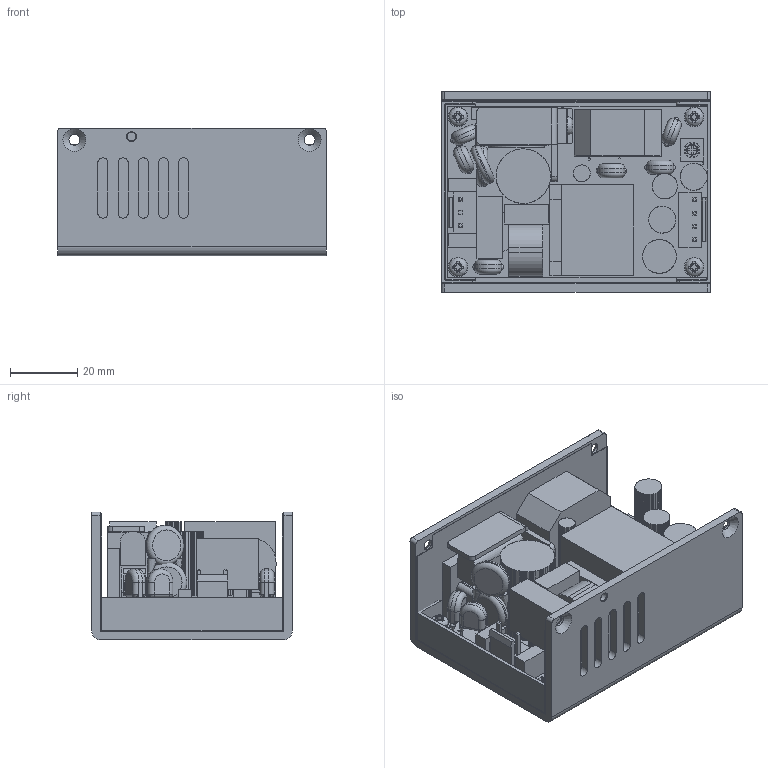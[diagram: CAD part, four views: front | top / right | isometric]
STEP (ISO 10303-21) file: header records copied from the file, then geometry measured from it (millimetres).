
FILE_DESCRIPTION(/* description */ (''),/* implementation_level */ '2;1');
FILE_NAME(/* name */ 'D:\Inventor\ARF130\TCI130U.stp',/* time_stamp */ '2023-08-04T17:42:41+08:00',/* author */ ('peter'),/* organization */ (''),/* preprocessor_version */ 'ST-DEVELOPER v15.2',/* originating_system */ 'Autodesk Inventor 2014',/* authorisation */ '');
FILE_SCHEMA (('AUTOMOTIVE_DESIGN { 1 0 10303 214 3 1 1 }'));
Length unit declared in the file: millimetre
Products named in the file (18): BOT CASE; M3 x 5R5 mm; 擋牆; MYLAR - BOT CASE; PCB; HEATSINK X2; TO-220FP; SCREW PH M3_5mm; PIN 3S-1; PIN 4; VR; C1; Y -- C; TCI130O for U_E; SCREW CH_W  M3_6mm; TCI130U
Bounding box: 80 x 59.7 x 38 mm (x, y, z)
Volume: 89970.6 mm3; surface area: 77612.4 mm2
Topology: 36 solids, 36 shells, 1821 faces, 4865 edges, 3170 vertices
Faces by surface type: plane 1396, cylinder 233, bspline 93, cone 65, torus 26, sphere 8
Full cylindrical faces by diameter (mm): 0.45 x3, 0.6 x12, 0.8 x4, 2.459 x18, 3 x5, 3.1 x4, 3.2 x9, 4 x4, 4.5 x4, 4.7 x4, 5.8 x4
Entity records: 46747 total; most frequent: CARTESIAN_POINT 8755, ORIENTED_EDGE 7724, DIRECTION 7113, EDGE_CURVE 3862, LINE 3405, VECTOR 3405, VERTEX_POINT 2577, AXIS2_PLACEMENT_3D 1854
